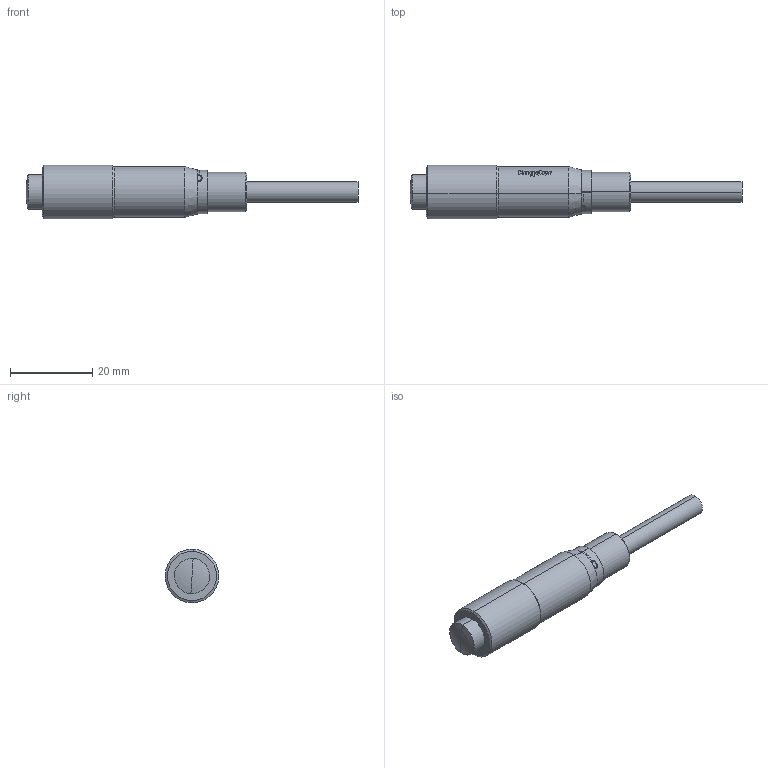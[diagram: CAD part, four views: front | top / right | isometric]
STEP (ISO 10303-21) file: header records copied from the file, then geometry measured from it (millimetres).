
FILE_DESCRIPTION (( 'STEP AP203' ), '1' );
FILE_NAME ('MT25-1_Customer.STEP', '2019-02-13T12:13:11', ( 'User' ), ( 'No' ), 'SwSTEP 2.0', 'SolidWorks 2012', '' );
FILE_SCHEMA (( 'CONFIG_CONTROL_DESIGN' ));
Length unit declared in the file: millimetre
Products named in the file (3): MT25-1_b; MT25-1_a-customer; MT25-1_Customer
Assembly tree (2 placements, depth 2):
  MT25-1_Customer
    MT25-1_b
    MT25-1_a-customer
Bounding box: 80.5 x 12.97 x 12.97 mm (x, y, z)
Volume: 6001.7 mm3; surface area: 6389.7 mm2
Topology: 2 solids, 2 shells, 507 faces, 1266 edges, 837 vertices
Faces by surface type: plane 276, bspline 124, cylinder 93, cone 8, torus 6
Entity records: 25021 total; most frequent: CARTESIAN_POINT 13434, ORIENTED_EDGE 2528, DIRECTION 1961, EDGE_CURVE 1264, VERTEX_POINT 837, AXIS2_PLACEMENT_3D 709, EDGE_LOOP 585, VECTOR 543
